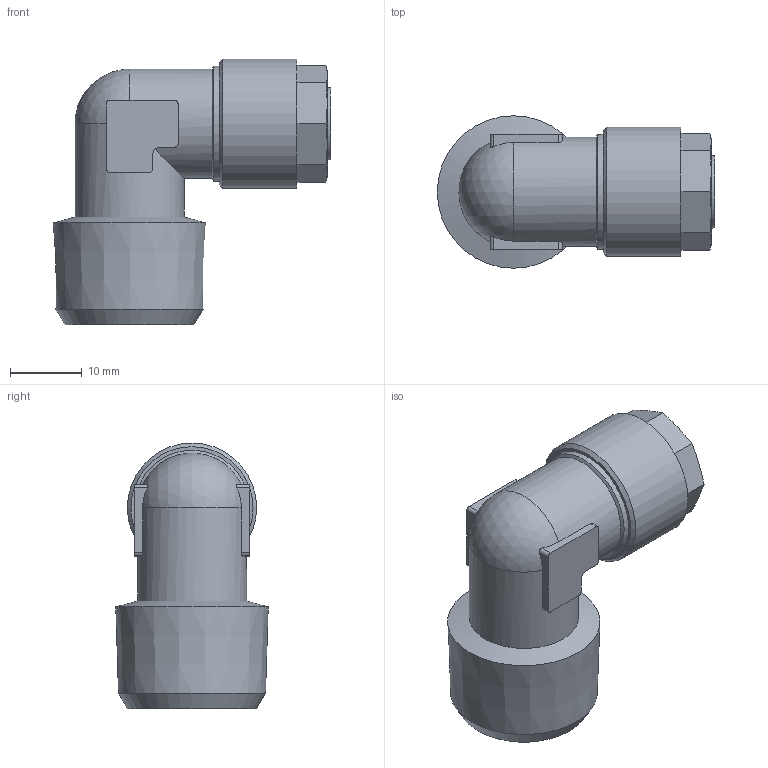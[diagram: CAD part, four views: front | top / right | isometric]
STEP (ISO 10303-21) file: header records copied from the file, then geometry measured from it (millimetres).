
FILE_DESCRIPTION(/* description */ (''),/* implementation_level */ '2;1');
FILE_NAME(/* name */ '11015_305_1210_R12_19.07.17',/* time_stamp */ '2017-07-19T09:58:53+02:00',/* author */ (''),/* organization */ (''),/* preprocessor_version */ 'ST-DEVELOPER v16.5',/* originating_system */ 'HiCAD 2016 2102.2 Build 618',/* authorisation */ '');
FILE_SCHEMA (('AUTOMOTIVE_DESIGN { 1 0 10303 214 1 1 1 1 }'));
Length unit declared in the file: millimetre
Products named in the file (3): Root; R11015; 17008
Assembly tree (2 placements, depth 2):
  Root
    R11015
    17008
Bounding box: 38.61 x 21.22 x 37 mm (x, y, z)
Volume: 7960.5 mm3; surface area: 6767.2 mm2
Topology: 2 solids, 2 shells, 75 faces, 192 edges, 124 vertices
Faces by surface type: plane 29, cylinder 22, cone 22, sphere 1, torus 1
Full cylindrical faces by diameter (mm): 8 x1, 10.5 x1, 11 x1, 12 x1, 14.73 x1, 15 x1, 15.2 x2, 16 x1, 18 x1
Entity records: 5982 total; most frequent: CARTESIAN_POINT 2693, DIRECTION 370, PRESENTATION_STYLE_ASSIGNMENT 316, COLOUR_RGB 315, DRAUGHTING_PRE_DEFINED_CURVE_FONT 314, CURVE_STYLE 314, OVER_RIDING_STYLED_ITEM 314, ORIENTED_EDGE 314
